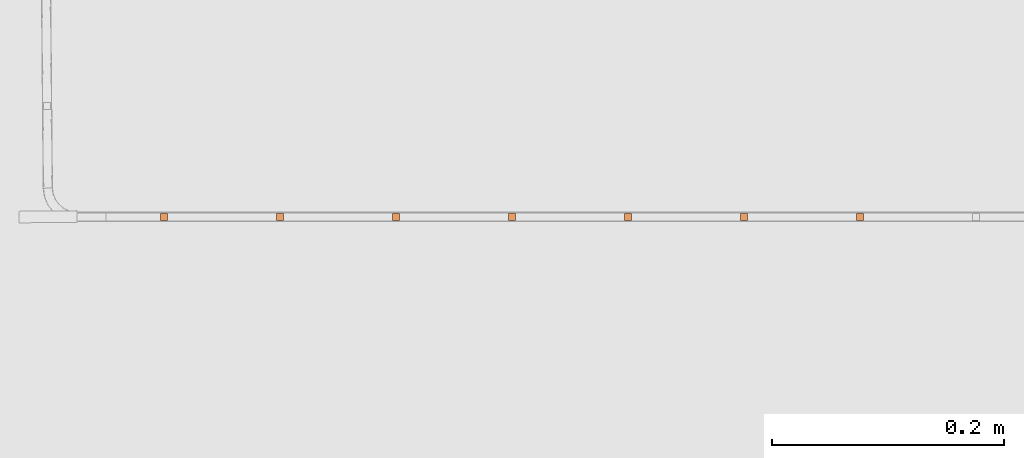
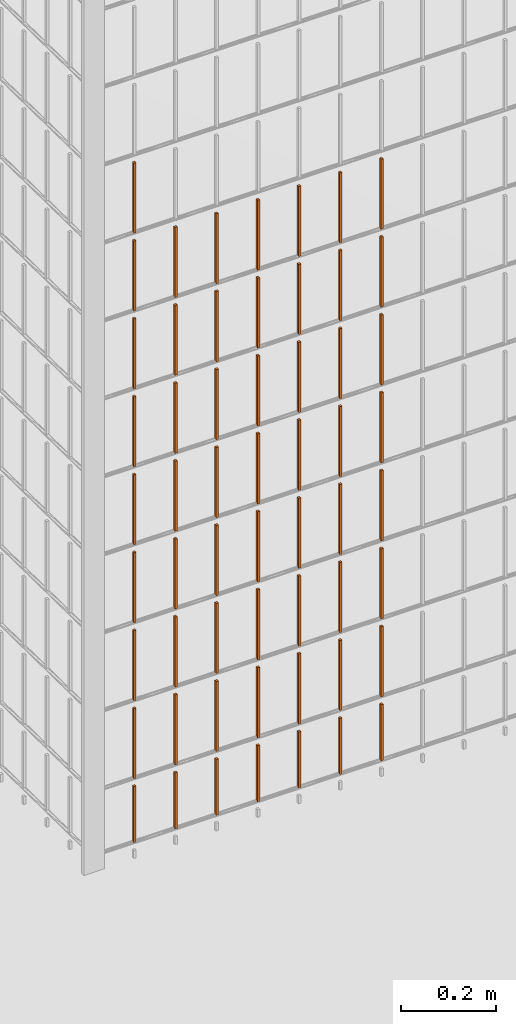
# One storey, part 237 of 1809: 57 proxies, 1 element without a shape of its own.
"""IFC2X3 building model written with IfcOpenShell, lengths in millimetres."""

from ifc_helpers import new_model, entity, si_unit, converted_unit, derived_unit, money_unit, direction, frame, origin_with_axes, place, context, subcontext, project, spatial, faceted_brep, source, transform, mapped, material, type_object, element, aggregate, save


model = new_model("IFC2X3")

# Units and contexts
model_context = context("Model", 3, precision=0.01, world=origin_with_axes(), true_north=direction((0.0, 1.0)))
body_context = subcontext(model_context, "Body", "Model", "MODEL_VIEW")
ifc_project = project(units=[si_unit("LENGTHUNIT", "METRE", prefix="MILLI"), si_unit("AREAUNIT", "SQUARE_METRE"), si_unit("VOLUMEUNIT", "CUBIC_METRE"), converted_unit("PLANEANGLEUNIT", "DEGREE", entity("IfcPlaneAngleMeasure", 0.0174532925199), si_unit("PLANEANGLEUNIT", "RADIAN"), dimensions=[0, 0, 0, 0, 0, 0, 0]), si_unit("SOLIDANGLEUNIT", "STERADIAN"), money_unit("EUR"), converted_unit("TIMEUNIT", "Year", entity("IfcTimeMeasure", 31556926.0), si_unit("TIMEUNIT", "SECOND"), dimensions=[0, 0, 1, 0, 0, 0, 0]), si_unit("MASSUNIT", "GRAM", prefix="KILO"), si_unit("THERMODYNAMICTEMPERATUREUNIT", "DEGREE_CELSIUS"), si_unit("LUMINOUSINTENSITYUNIT", "LUMEN"), si_unit("ENERGYUNIT", "JOULE", prefix="MEGA"), derived_unit("THERMALCONDUCTANCEUNIT", [(si_unit("POWERUNIT", "WATT"), 1), (si_unit("LENGTHUNIT", "METRE"), -1), (si_unit("THERMODYNAMICTEMPERATUREUNIT", "KELVIN"), -1)]), derived_unit("SPECIFICHEATCAPACITYUNIT", [(si_unit("ENERGYUNIT", "JOULE"), 1), (si_unit("MASSUNIT", "GRAM", prefix="KILO"), -1), (si_unit("THERMODYNAMICTEMPERATUREUNIT", "KELVIN"), -1)]), derived_unit("MASSDENSITYUNIT", [(si_unit("MASSUNIT", "GRAM", prefix="KILO"), 1), (si_unit("VOLUMEUNIT", "CUBIC_METRE"), -1)])], contexts=[model_context])

# Site, building, storey
site_placement = place(None, origin_with_axes())
site = spatial("IfcSite", under=ifc_project, at=site_placement, Name="Politse- ja Piirivalveameti ning Päästeameti ühishoone", CompositionType="ELEMENT")
building_placement = place(site_placement, origin_with_axes())
building = spatial("IfcBuilding", under=site, at=building_placement, Name="Politse- ja Piirivalveameti ning Päästeameti ühishoone", CompositionType="ELEMENT")
storey_placement = place(building_placement, origin_with_axes())
storey = spatial("IfcBuildingStorey", under=building, at=storey_placement, Name="Esimene korrus", CompositionType="ELEMENT", Elevation=0.0)

# Proxies
building_element_proxy_type_1 = type_object("IfcBuildingElementProxyType", Name="Railing Type", PredefinedType="NOTDEFINED")
proxy_1_placement = place(storey_placement, frame((-16775.8601056, 25156.7555964, 0.0), z_axis=(0.0, 0.0, 1.0), x_axis=(1.0, 0.0, 0.0)))
proxy_1 = element("IfcBuildingElementProxy", 1, at=proxy_1_placement, inside=storey, type_object=building_element_proxy_type_1, Name="KENNELI PIIRE")
ifc_material = material(Name="Teras - Konstruktsioon")
building_element_proxy_type_2 = type_object("IfcBuildingElementProxyType", Name="IfcBuildingElementProxy", PredefinedType="NOTDEFINED")
shared_shape_1 = source(origin_with_axes(), body_context, "Body", "Brep", [
    faceted_brep([(3.0, 3.0, 0.0), (-3.0, 3.0, 0.0), (-3.0, 3.0, 180.000012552), (3.0, 3.0, 180.000012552), (3.0, -3.0, 0.0), (-3.0, -3.0, 0.0), (-3.0, -3.0, 180.000012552), (3.0, -3.0, 180.000012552)], [[[0, 1, 2, 3]], [[0, 4, 5, 1]], [[1, 5, 6, 2]], [[3, 2, 6, 7]], [[4, 0, 3, 7]], [[5, 4, 7, 6]]]),
])
proxy_2_placement = place(proxy_1_placement, frame((-4782.26655065, -16068.8402798, 403.999987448), z_axis=(0.0, 0.0, 1.0), x_axis=(1.0, 0.0, 0.0)))
proxy_2 = element("IfcBuildingElementProxy", 2, at=proxy_2_placement, type_object=building_element_proxy_type_2, material=ifc_material, Name="BALUSTER - 001", context=body_context, shape_type="MappedRepresentation", body=[
    mapped(shared_shape_1, transform((0.0, 0.0, 0.0), x_axis=(0.0, -1.0, 0.0), y_axis=(1.0, 0.0, 0.0), z_axis=(0.0, 0.0, 1.0))),
])
proxy_3_placement = place(proxy_1_placement, frame((-4682.26655065, -16068.8402798, 403.999987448), z_axis=(0.0, 0.0, 1.0), x_axis=(1.0, 0.0, 0.0)))
proxy_3 = element("IfcBuildingElementProxy", 3, at=proxy_3_placement, type_object=building_element_proxy_type_2, material=ifc_material, Name="BALUSTER - 001", context=body_context, shape_type="MappedRepresentation", body=[
    mapped(shared_shape_1, transform((0.0, 0.0, 0.0), x_axis=(0.0, -1.0, 0.0), y_axis=(1.0, 0.0, 0.0), z_axis=(0.0, 0.0, 1.0))),
])
proxy_4_placement = place(proxy_1_placement, frame((-4582.26655065, -16068.8402798, 403.999987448), z_axis=(0.0, 0.0, 1.0), x_axis=(1.0, 0.0, 0.0)))
proxy_4 = element("IfcBuildingElementProxy", 4, at=proxy_4_placement, type_object=building_element_proxy_type_2, material=ifc_material, Name="BALUSTER - 001", context=body_context, shape_type="MappedRepresentation", body=[
    mapped(shared_shape_1, transform((0.0, 0.0, 0.0), x_axis=(0.0, -1.0, 0.0), y_axis=(1.0, 0.0, 0.0), z_axis=(0.0, 0.0, 1.0))),
])
proxy_5_placement = place(proxy_1_placement, frame((-4482.26655065, -16068.8402798, 403.999987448), z_axis=(0.0, 0.0, 1.0), x_axis=(1.0, 0.0, 0.0)))
proxy_5 = element("IfcBuildingElementProxy", 5, at=proxy_5_placement, type_object=building_element_proxy_type_2, material=ifc_material, Name="BALUSTER - 001", context=body_context, shape_type="MappedRepresentation", body=[
    mapped(shared_shape_1, transform((0.0, 0.0, 0.0), x_axis=(0.0, -1.0, 0.0), y_axis=(1.0, 0.0, 0.0), z_axis=(0.0, 0.0, 1.0))),
])
proxy_6_placement = place(proxy_1_placement, frame((-4382.26655065, -16068.8402798, 403.999987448), z_axis=(0.0, 0.0, 1.0), x_axis=(1.0, 0.0, 0.0)))
proxy_6 = element("IfcBuildingElementProxy", 6, at=proxy_6_placement, type_object=building_element_proxy_type_2, material=ifc_material, Name="BALUSTER - 001", context=body_context, shape_type="MappedRepresentation", body=[
    mapped(shared_shape_1, transform((0.0, 0.0, 0.0), x_axis=(0.0, -1.0, 0.0), y_axis=(1.0, 0.0, 0.0), z_axis=(0.0, 0.0, 1.0))),
])
proxy_7_placement = place(proxy_1_placement, frame((-4282.26655065, -16068.8402798, 403.999987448), z_axis=(0.0, 0.0, 1.0), x_axis=(1.0, 0.0, 0.0)))
proxy_7 = element("IfcBuildingElementProxy", 7, at=proxy_7_placement, type_object=building_element_proxy_type_2, material=ifc_material, Name="BALUSTER - 001", context=body_context, shape_type="MappedRepresentation", body=[
    mapped(shared_shape_1, transform((0.0, 0.0, 0.0), x_axis=(0.0, -1.0, 0.0), y_axis=(1.0, 0.0, 0.0), z_axis=(0.0, 0.0, 1.0))),
])
proxy_8_placement = place(proxy_1_placement, frame((-4182.26655065, -16068.8402798, 403.999987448), z_axis=(0.0, 0.0, 1.0), x_axis=(1.0, 0.0, 0.0)))
proxy_8 = element("IfcBuildingElementProxy", 8, at=proxy_8_placement, type_object=building_element_proxy_type_2, material=ifc_material, Name="BALUSTER - 001", context=body_context, shape_type="MappedRepresentation", body=[
    mapped(shared_shape_1, transform((0.0, 0.0, 0.0), x_axis=(0.0, -1.0, 0.0), y_axis=(1.0, 0.0, 0.0), z_axis=(0.0, 0.0, 1.0))),
])
proxy_9_placement = place(proxy_1_placement, frame((-4782.26655065, -16068.8402798, 803.999987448), z_axis=(0.0, 0.0, 1.0), x_axis=(1.0, 0.0, 0.0)))
proxy_9 = element("IfcBuildingElementProxy", 9, at=proxy_9_placement, type_object=building_element_proxy_type_2, material=ifc_material, Name="BALUSTER - 001", context=body_context, shape_type="MappedRepresentation", body=[
    mapped(shared_shape_1, transform((0.0, 0.0, 0.0), x_axis=(0.0, -1.0, 0.0), y_axis=(1.0, 0.0, 0.0), z_axis=(0.0, 0.0, 1.0))),
])
proxy_10_placement = place(proxy_1_placement, frame((-4682.26655065, -16068.8402798, 803.999987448), z_axis=(0.0, 0.0, 1.0), x_axis=(1.0, 0.0, 0.0)))
proxy_10 = element("IfcBuildingElementProxy", 10, at=proxy_10_placement, type_object=building_element_proxy_type_2, material=ifc_material, Name="BALUSTER - 001", context=body_context, shape_type="MappedRepresentation", body=[
    mapped(shared_shape_1, transform((0.0, 0.0, 0.0), x_axis=(0.0, -1.0, 0.0), y_axis=(1.0, 0.0, 0.0), z_axis=(0.0, 0.0, 1.0))),
])
proxy_11_placement = place(proxy_1_placement, frame((-4582.26655065, -16068.8402798, 803.999987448), z_axis=(0.0, 0.0, 1.0), x_axis=(1.0, 0.0, 0.0)))
proxy_11 = element("IfcBuildingElementProxy", 11, at=proxy_11_placement, type_object=building_element_proxy_type_2, material=ifc_material, Name="BALUSTER - 001", context=body_context, shape_type="MappedRepresentation", body=[
    mapped(shared_shape_1, transform((0.0, 0.0, 0.0), x_axis=(0.0, -1.0, 0.0), y_axis=(1.0, 0.0, 0.0), z_axis=(0.0, 0.0, 1.0))),
])
proxy_12_placement = place(proxy_1_placement, frame((-4482.26655065, -16068.8402798, 803.999987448), z_axis=(0.0, 0.0, 1.0), x_axis=(1.0, 0.0, 0.0)))
proxy_12 = element("IfcBuildingElementProxy", 12, at=proxy_12_placement, type_object=building_element_proxy_type_2, material=ifc_material, Name="BALUSTER - 001", context=body_context, shape_type="MappedRepresentation", body=[
    mapped(shared_shape_1, transform((0.0, 0.0, 0.0), x_axis=(0.0, -1.0, 0.0), y_axis=(1.0, 0.0, 0.0), z_axis=(0.0, 0.0, 1.0))),
])
proxy_13_placement = place(proxy_1_placement, frame((-4382.26655065, -16068.8402798, 803.999987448), z_axis=(0.0, 0.0, 1.0), x_axis=(1.0, 0.0, 0.0)))
proxy_13 = element("IfcBuildingElementProxy", 13, at=proxy_13_placement, type_object=building_element_proxy_type_2, material=ifc_material, Name="BALUSTER - 001", context=body_context, shape_type="MappedRepresentation", body=[
    mapped(shared_shape_1, transform((0.0, 0.0, 0.0), x_axis=(0.0, -1.0, 0.0), y_axis=(1.0, 0.0, 0.0), z_axis=(0.0, 0.0, 1.0))),
])
proxy_14_placement = place(proxy_1_placement, frame((-4282.26655065, -16068.8402798, 803.999987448), z_axis=(0.0, 0.0, 1.0), x_axis=(1.0, 0.0, 0.0)))
proxy_14 = element("IfcBuildingElementProxy", 14, at=proxy_14_placement, type_object=building_element_proxy_type_2, material=ifc_material, Name="BALUSTER - 001", context=body_context, shape_type="MappedRepresentation", body=[
    mapped(shared_shape_1, transform((0.0, 0.0, 0.0), x_axis=(0.0, -1.0, 0.0), y_axis=(1.0, 0.0, 0.0), z_axis=(0.0, 0.0, 1.0))),
])
proxy_15_placement = place(proxy_1_placement, frame((-4182.26655065, -16068.8402798, 803.999987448), z_axis=(0.0, 0.0, 1.0), x_axis=(1.0, 0.0, 0.0)))
proxy_15 = element("IfcBuildingElementProxy", 15, at=proxy_15_placement, type_object=building_element_proxy_type_2, material=ifc_material, Name="BALUSTER - 001", context=body_context, shape_type="MappedRepresentation", body=[
    mapped(shared_shape_1, transform((0.0, 0.0, 0.0), x_axis=(0.0, -1.0, 0.0), y_axis=(1.0, 0.0, 0.0), z_axis=(0.0, 0.0, 1.0))),
])
proxy_16_placement = place(proxy_1_placement, frame((-4782.26655065, -16068.8402798, 1003.99998745), z_axis=(0.0, 0.0, 1.0), x_axis=(1.0, 0.0, 0.0)))
proxy_16 = element("IfcBuildingElementProxy", 16, at=proxy_16_placement, type_object=building_element_proxy_type_2, material=ifc_material, Name="BALUSTER - 001", context=body_context, shape_type="MappedRepresentation", body=[
    mapped(shared_shape_1, transform((0.0, 0.0, 0.0), x_axis=(0.0, -1.0, 0.0), y_axis=(1.0, 0.0, 0.0), z_axis=(0.0, 0.0, 1.0))),
])
proxy_17_placement = place(proxy_1_placement, frame((-4682.26655065, -16068.8402798, 1003.99998745), z_axis=(0.0, 0.0, 1.0), x_axis=(1.0, 0.0, 0.0)))
proxy_17 = element("IfcBuildingElementProxy", 17, at=proxy_17_placement, type_object=building_element_proxy_type_2, material=ifc_material, Name="BALUSTER - 001", context=body_context, shape_type="MappedRepresentation", body=[
    mapped(shared_shape_1, transform((0.0, 0.0, 0.0), x_axis=(0.0, -1.0, 0.0), y_axis=(1.0, 0.0, 0.0), z_axis=(0.0, 0.0, 1.0))),
])
proxy_18_placement = place(proxy_1_placement, frame((-4582.26655065, -16068.8402798, 1003.99998745), z_axis=(0.0, 0.0, 1.0), x_axis=(1.0, 0.0, 0.0)))
proxy_18 = element("IfcBuildingElementProxy", 18, at=proxy_18_placement, type_object=building_element_proxy_type_2, material=ifc_material, Name="BALUSTER - 001", context=body_context, shape_type="MappedRepresentation", body=[
    mapped(shared_shape_1, transform((0.0, 0.0, 0.0), x_axis=(0.0, -1.0, 0.0), y_axis=(1.0, 0.0, 0.0), z_axis=(0.0, 0.0, 1.0))),
])
proxy_19_placement = place(proxy_1_placement, frame((-4482.26655065, -16068.8402798, 1003.99998745), z_axis=(0.0, 0.0, 1.0), x_axis=(1.0, 0.0, 0.0)))
proxy_19 = element("IfcBuildingElementProxy", 19, at=proxy_19_placement, type_object=building_element_proxy_type_2, material=ifc_material, Name="BALUSTER - 001", context=body_context, shape_type="MappedRepresentation", body=[
    mapped(shared_shape_1, transform((0.0, 0.0, 0.0), x_axis=(0.0, -1.0, 0.0), y_axis=(1.0, 0.0, 0.0), z_axis=(0.0, 0.0, 1.0))),
])
proxy_20_placement = place(proxy_1_placement, frame((-4382.26655065, -16068.8402798, 1003.99998745), z_axis=(0.0, 0.0, 1.0), x_axis=(1.0, 0.0, 0.0)))
proxy_20 = element("IfcBuildingElementProxy", 20, at=proxy_20_placement, type_object=building_element_proxy_type_2, material=ifc_material, Name="BALUSTER - 001", context=body_context, shape_type="MappedRepresentation", body=[
    mapped(shared_shape_1, transform((0.0, 0.0, 0.0), x_axis=(0.0, -1.0, 0.0), y_axis=(1.0, 0.0, 0.0), z_axis=(0.0, 0.0, 1.0))),
])
proxy_21_placement = place(proxy_1_placement, frame((-4282.26655065, -16068.8402798, 1003.99998745), z_axis=(0.0, 0.0, 1.0), x_axis=(1.0, 0.0, 0.0)))
proxy_21 = element("IfcBuildingElementProxy", 21, at=proxy_21_placement, type_object=building_element_proxy_type_2, material=ifc_material, Name="BALUSTER - 001", context=body_context, shape_type="MappedRepresentation", body=[
    mapped(shared_shape_1, transform((0.0, 0.0, 0.0), x_axis=(0.0, -1.0, 0.0), y_axis=(1.0, 0.0, 0.0), z_axis=(0.0, 0.0, 1.0))),
])
proxy_22_placement = place(proxy_1_placement, frame((-4182.26655065, -16068.8402798, 1003.99998745), z_axis=(0.0, 0.0, 1.0), x_axis=(1.0, 0.0, 0.0)))
proxy_22 = element("IfcBuildingElementProxy", 22, at=proxy_22_placement, type_object=building_element_proxy_type_2, material=ifc_material, Name="BALUSTER - 001", context=body_context, shape_type="MappedRepresentation", body=[
    mapped(shared_shape_1, transform((0.0, 0.0, 0.0), x_axis=(0.0, -1.0, 0.0), y_axis=(1.0, 0.0, 0.0), z_axis=(0.0, 0.0, 1.0))),
])
shared_shape_2 = source(origin_with_axes(), body_context, "Body", "Brep", [
    faceted_brep([(3.0, 3.0, 0.0), (-3.0, 3.0, 0.0), (-3.0, 3.0, 144.000012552), (3.0, 3.0, 144.000012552), (3.0, -3.0, 0.0), (-3.0, -3.0, 0.0), (-3.0, -3.0, 144.000012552), (3.0, -3.0, 144.000012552)], [[[0, 1, 2, 3]], [[0, 4, 5, 1]], [[1, 5, 6, 2]], [[3, 2, 6, 7]], [[4, 0, 3, 7]], [[5, 4, 7, 6]]]),
])
proxy_23_placement = place(proxy_1_placement, frame((-4782.26655065, -16068.8402798, 39.9999874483), z_axis=(0.0, 0.0, 1.0), x_axis=(1.0, 0.0, 0.0)))
proxy_23 = element("IfcBuildingElementProxy", 23, at=proxy_23_placement, type_object=building_element_proxy_type_2, material=ifc_material, Name="BALUSTER - 001", context=body_context, shape_type="MappedRepresentation", body=[
    mapped(shared_shape_2, transform((0.0, 0.0, 0.0), x_axis=(0.0, -1.0, 0.0), y_axis=(1.0, 0.0, 0.0), z_axis=(0.0, 0.0, 1.0))),
])
proxy_24_placement = place(proxy_1_placement, frame((-4682.26655065, -16068.8402798, 39.9999874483), z_axis=(0.0, 0.0, 1.0), x_axis=(1.0, 0.0, 0.0)))
proxy_24 = element("IfcBuildingElementProxy", 24, at=proxy_24_placement, type_object=building_element_proxy_type_2, material=ifc_material, Name="BALUSTER - 001", context=body_context, shape_type="MappedRepresentation", body=[
    mapped(shared_shape_2, transform((0.0, 0.0, 0.0), x_axis=(0.0, -1.0, 0.0), y_axis=(1.0, 0.0, 0.0), z_axis=(0.0, 0.0, 1.0))),
])
proxy_25_placement = place(proxy_1_placement, frame((-4582.26655065, -16068.8402798, 39.9999874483), z_axis=(0.0, 0.0, 1.0), x_axis=(1.0, 0.0, 0.0)))
proxy_25 = element("IfcBuildingElementProxy", 25, at=proxy_25_placement, type_object=building_element_proxy_type_2, material=ifc_material, Name="BALUSTER - 001", context=body_context, shape_type="MappedRepresentation", body=[
    mapped(shared_shape_2, transform((0.0, 0.0, 0.0), x_axis=(0.0, -1.0, 0.0), y_axis=(1.0, 0.0, 0.0), z_axis=(0.0, 0.0, 1.0))),
])
proxy_26_placement = place(proxy_1_placement, frame((-4482.26655065, -16068.8402798, 39.9999874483), z_axis=(0.0, 0.0, 1.0), x_axis=(1.0, 0.0, 0.0)))
proxy_26 = element("IfcBuildingElementProxy", 26, at=proxy_26_placement, type_object=building_element_proxy_type_2, material=ifc_material, Name="BALUSTER - 001", context=body_context, shape_type="MappedRepresentation", body=[
    mapped(shared_shape_2, transform((0.0, 0.0, 0.0), x_axis=(0.0, -1.0, 0.0), y_axis=(1.0, 0.0, 0.0), z_axis=(0.0, 0.0, 1.0))),
])
proxy_27_placement = place(proxy_1_placement, frame((-4382.26655065, -16068.8402798, 39.9999874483), z_axis=(0.0, 0.0, 1.0), x_axis=(1.0, 0.0, 0.0)))
proxy_27 = element("IfcBuildingElementProxy", 27, at=proxy_27_placement, type_object=building_element_proxy_type_2, material=ifc_material, Name="BALUSTER - 001", context=body_context, shape_type="MappedRepresentation", body=[
    mapped(shared_shape_2, transform((0.0, 0.0, 0.0), x_axis=(0.0, -1.0, 0.0), y_axis=(1.0, 0.0, 0.0), z_axis=(0.0, 0.0, 1.0))),
])
proxy_28_placement = place(proxy_1_placement, frame((-4282.26655065, -16068.8402798, 39.9999874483), z_axis=(0.0, 0.0, 1.0), x_axis=(1.0, 0.0, 0.0)))
proxy_28 = element("IfcBuildingElementProxy", 28, at=proxy_28_placement, type_object=building_element_proxy_type_2, material=ifc_material, Name="BALUSTER - 001", context=body_context, shape_type="MappedRepresentation", body=[
    mapped(shared_shape_2, transform((0.0, 0.0, 0.0), x_axis=(0.0, -1.0, 0.0), y_axis=(1.0, 0.0, 0.0), z_axis=(0.0, 0.0, 1.0))),
])
proxy_29_placement = place(proxy_1_placement, frame((-4182.26655065, -16068.8402798, 39.9999874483), z_axis=(0.0, 0.0, 1.0), x_axis=(1.0, 0.0, 0.0)))
proxy_29 = element("IfcBuildingElementProxy", 29, at=proxy_29_placement, type_object=building_element_proxy_type_2, material=ifc_material, Name="BALUSTER - 001", context=body_context, shape_type="MappedRepresentation", body=[
    mapped(shared_shape_2, transform((0.0, 0.0, 0.0), x_axis=(0.0, -1.0, 0.0), y_axis=(1.0, 0.0, 0.0), z_axis=(0.0, 0.0, 1.0))),
])
shared_shape_3 = source(origin_with_axes(), body_context, "Body", "Brep", [
    faceted_brep([(3.0, 3.0, 0.0), (-3.0, 3.0, 0.0), (-3.0, 3.0, 180.000012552), (3.0, 3.0, 180.000012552), (3.0, -3.0, 0.0), (-3.0, -3.0, 0.0), (-3.0, -3.0, 180.000012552), (3.0, -3.0, 180.000012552)], [[[0, 1, 2, 3]], [[0, 4, 5, 1]], [[1, 5, 6, 2]], [[3, 2, 6, 7]], [[4, 0, 3, 7]], [[5, 4, 7, 6]]]),
])
proxy_30_placement = place(proxy_1_placement, frame((-4782.26655065, -16068.8402798, 1403.99998745), z_axis=(0.0, 0.0, 1.0), x_axis=(1.0, 0.0, 0.0)))
proxy_30 = element("IfcBuildingElementProxy", 30, at=proxy_30_placement, type_object=building_element_proxy_type_2, material=ifc_material, Name="BALUSTER - 001", context=body_context, shape_type="MappedRepresentation", body=[
    mapped(shared_shape_3, transform((0.0, 0.0, 0.0), x_axis=(0.0, -1.0, 0.0), y_axis=(1.0, 0.0, 0.0), z_axis=(0.0, 0.0, 1.0))),
])
proxy_31_placement = place(proxy_1_placement, frame((-4682.26655065, -16068.8402798, 1403.99998745), z_axis=(0.0, 0.0, 1.0), x_axis=(1.0, 0.0, 0.0)))
proxy_31 = element("IfcBuildingElementProxy", 31, at=proxy_31_placement, type_object=building_element_proxy_type_2, material=ifc_material, Name="BALUSTER - 001", context=body_context, shape_type="MappedRepresentation", body=[
    mapped(shared_shape_3, transform((0.0, 0.0, 0.0), x_axis=(0.0, -1.0, 0.0), y_axis=(1.0, 0.0, 0.0), z_axis=(0.0, 0.0, 1.0))),
])
proxy_32_placement = place(proxy_1_placement, frame((-4582.26655065, -16068.8402798, 1403.99998745), z_axis=(0.0, 0.0, 1.0), x_axis=(1.0, 0.0, 0.0)))
proxy_32 = element("IfcBuildingElementProxy", 32, at=proxy_32_placement, type_object=building_element_proxy_type_2, material=ifc_material, Name="BALUSTER - 001", context=body_context, shape_type="MappedRepresentation", body=[
    mapped(shared_shape_3, transform((0.0, 0.0, 0.0), x_axis=(0.0, -1.0, 0.0), y_axis=(1.0, 0.0, 0.0), z_axis=(0.0, 0.0, 1.0))),
])
proxy_33_placement = place(proxy_1_placement, frame((-4482.26655065, -16068.8402798, 1403.99998745), z_axis=(0.0, 0.0, 1.0), x_axis=(1.0, 0.0, 0.0)))
proxy_33 = element("IfcBuildingElementProxy", 33, at=proxy_33_placement, type_object=building_element_proxy_type_2, material=ifc_material, Name="BALUSTER - 001", context=body_context, shape_type="MappedRepresentation", body=[
    mapped(shared_shape_3, transform((0.0, 0.0, 0.0), x_axis=(0.0, -1.0, 0.0), y_axis=(1.0, 0.0, 0.0), z_axis=(0.0, 0.0, 1.0))),
])
proxy_34_placement = place(proxy_1_placement, frame((-4382.26655065, -16068.8402798, 1403.99998745), z_axis=(0.0, 0.0, 1.0), x_axis=(1.0, 0.0, 0.0)))
proxy_34 = element("IfcBuildingElementProxy", 34, at=proxy_34_placement, type_object=building_element_proxy_type_2, material=ifc_material, Name="BALUSTER - 001", context=body_context, shape_type="MappedRepresentation", body=[
    mapped(shared_shape_3, transform((0.0, 0.0, 0.0), x_axis=(0.0, -1.0, 0.0), y_axis=(1.0, 0.0, 0.0), z_axis=(0.0, 0.0, 1.0))),
])
proxy_35_placement = place(proxy_1_placement, frame((-4282.26655065, -16068.8402798, 1403.99998745), z_axis=(0.0, 0.0, 1.0), x_axis=(1.0, 0.0, 0.0)))
proxy_35 = element("IfcBuildingElementProxy", 35, at=proxy_35_placement, type_object=building_element_proxy_type_2, material=ifc_material, Name="BALUSTER - 001", context=body_context, shape_type="MappedRepresentation", body=[
    mapped(shared_shape_3, transform((0.0, 0.0, 0.0), x_axis=(0.0, -1.0, 0.0), y_axis=(1.0, 0.0, 0.0), z_axis=(0.0, 0.0, 1.0))),
])
proxy_36_placement = place(proxy_1_placement, frame((-4182.26655065, -16068.8402798, 1403.99998745), z_axis=(0.0, 0.0, 1.0), x_axis=(1.0, 0.0, 0.0)))
proxy_36 = element("IfcBuildingElementProxy", 36, at=proxy_36_placement, type_object=building_element_proxy_type_2, material=ifc_material, Name="BALUSTER - 001", context=body_context, shape_type="MappedRepresentation", body=[
    mapped(shared_shape_3, transform((0.0, 0.0, 0.0), x_axis=(0.0, -1.0, 0.0), y_axis=(1.0, 0.0, 0.0), z_axis=(0.0, 0.0, 1.0))),
])
shared_shape_4 = source(origin_with_axes(), body_context, "Body", "Brep", [
    faceted_brep([(3.0, 3.0, 0.0), (-3.0, 3.0, 0.0), (-3.0, 3.0, 180.000012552), (3.0, 3.0, 180.000012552), (3.0, -3.0, 0.0), (-3.0, -3.0, 0.0), (-3.0, -3.0, 180.000012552), (3.0, -3.0, 180.000012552)], [[[0, 1, 2, 3]], [[0, 4, 5, 1]], [[1, 5, 6, 2]], [[3, 2, 6, 7]], [[4, 0, 3, 7]], [[5, 4, 7, 6]]]),
])
proxy_37_placement = place(proxy_1_placement, frame((-4782.26655065, -16068.8402798, 1203.99998745), z_axis=(0.0, 0.0, 1.0), x_axis=(1.0, 0.0, 0.0)))
proxy_37 = element("IfcBuildingElementProxy", 37, at=proxy_37_placement, type_object=building_element_proxy_type_2, material=ifc_material, Name="BALUSTER - 001", context=body_context, shape_type="MappedRepresentation", body=[
    mapped(shared_shape_4, transform((0.0, 0.0, 0.0), x_axis=(0.0, -1.0, 0.0), y_axis=(1.0, 0.0, 0.0), z_axis=(0.0, 0.0, 1.0))),
])
proxy_38_placement = place(proxy_1_placement, frame((-4682.26655065, -16068.8402798, 1203.99998745), z_axis=(0.0, 0.0, 1.0), x_axis=(1.0, 0.0, 0.0)))
proxy_38 = element("IfcBuildingElementProxy", 38, at=proxy_38_placement, type_object=building_element_proxy_type_2, material=ifc_material, Name="BALUSTER - 001", context=body_context, shape_type="MappedRepresentation", body=[
    mapped(shared_shape_4, transform((0.0, 0.0, 0.0), x_axis=(0.0, -1.0, 0.0), y_axis=(1.0, 0.0, 0.0), z_axis=(0.0, 0.0, 1.0))),
])
proxy_39_placement = place(proxy_1_placement, frame((-4582.26655065, -16068.8402798, 1203.99998745), z_axis=(0.0, 0.0, 1.0), x_axis=(1.0, 0.0, 0.0)))
proxy_39 = element("IfcBuildingElementProxy", 39, at=proxy_39_placement, type_object=building_element_proxy_type_2, material=ifc_material, Name="BALUSTER - 001", context=body_context, shape_type="MappedRepresentation", body=[
    mapped(shared_shape_4, transform((0.0, 0.0, 0.0), x_axis=(0.0, -1.0, 0.0), y_axis=(1.0, 0.0, 0.0), z_axis=(0.0, 0.0, 1.0))),
])
proxy_40_placement = place(proxy_1_placement, frame((-4482.26655065, -16068.8402798, 1203.99998745), z_axis=(0.0, 0.0, 1.0), x_axis=(1.0, 0.0, 0.0)))
proxy_40 = element("IfcBuildingElementProxy", 40, at=proxy_40_placement, type_object=building_element_proxy_type_2, material=ifc_material, Name="BALUSTER - 001", context=body_context, shape_type="MappedRepresentation", body=[
    mapped(shared_shape_4, transform((0.0, 0.0, 0.0), x_axis=(0.0, -1.0, 0.0), y_axis=(1.0, 0.0, 0.0), z_axis=(0.0, 0.0, 1.0))),
])
proxy_41_placement = place(proxy_1_placement, frame((-4382.26655065, -16068.8402798, 1203.99998745), z_axis=(0.0, 0.0, 1.0), x_axis=(1.0, 0.0, 0.0)))
proxy_41 = element("IfcBuildingElementProxy", 41, at=proxy_41_placement, type_object=building_element_proxy_type_2, material=ifc_material, Name="BALUSTER - 001", context=body_context, shape_type="MappedRepresentation", body=[
    mapped(shared_shape_4, transform((0.0, 0.0, 0.0), x_axis=(0.0, -1.0, 0.0), y_axis=(1.0, 0.0, 0.0), z_axis=(0.0, 0.0, 1.0))),
])
proxy_42_placement = place(proxy_1_placement, frame((-4282.26655065, -16068.8402798, 1203.99998745), z_axis=(0.0, 0.0, 1.0), x_axis=(1.0, 0.0, 0.0)))
proxy_42 = element("IfcBuildingElementProxy", 42, at=proxy_42_placement, type_object=building_element_proxy_type_2, material=ifc_material, Name="BALUSTER - 001", context=body_context, shape_type="MappedRepresentation", body=[
    mapped(shared_shape_4, transform((0.0, 0.0, 0.0), x_axis=(0.0, -1.0, 0.0), y_axis=(1.0, 0.0, 0.0), z_axis=(0.0, 0.0, 1.0))),
])
proxy_43_placement = place(proxy_1_placement, frame((-4182.26655065, -16068.8402798, 1203.99998745), z_axis=(0.0, 0.0, 1.0), x_axis=(1.0, 0.0, 0.0)))
proxy_43 = element("IfcBuildingElementProxy", 43, at=proxy_43_placement, type_object=building_element_proxy_type_2, material=ifc_material, Name="BALUSTER - 001", context=body_context, shape_type="MappedRepresentation", body=[
    mapped(shared_shape_4, transform((0.0, 0.0, 0.0), x_axis=(0.0, -1.0, 0.0), y_axis=(1.0, 0.0, 0.0), z_axis=(0.0, 0.0, 1.0))),
])
shared_shape_5 = source(origin_with_axes(), body_context, "Body", "Brep", [
    faceted_brep([(3.0, 3.0, 0.0), (-3.0, 3.0, 0.0), (-3.0, 3.0, 180.000012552), (3.0, 3.0, 180.000012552), (3.0, -3.0, 0.0), (-3.0, -3.0, 0.0), (-3.0, -3.0, 180.000012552), (3.0, -3.0, 180.000012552)], [[[0, 1, 2, 3]], [[0, 4, 5, 1]], [[1, 5, 6, 2]], [[3, 2, 6, 7]], [[4, 0, 3, 7]], [[5, 4, 7, 6]]]),
])
proxy_44_placement = place(proxy_1_placement, frame((-4782.26655065, -16068.8402798, 203.999987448), z_axis=(0.0, 0.0, 1.0), x_axis=(1.0, 0.0, 0.0)))
proxy_44 = element("IfcBuildingElementProxy", 44, at=proxy_44_placement, type_object=building_element_proxy_type_2, material=ifc_material, Name="BALUSTER - 001", context=body_context, shape_type="MappedRepresentation", body=[
    mapped(shared_shape_5, transform((0.0, 0.0, 0.0), x_axis=(0.0, -1.0, 0.0), y_axis=(1.0, 0.0, 0.0), z_axis=(0.0, 0.0, 1.0))),
])
proxy_45_placement = place(proxy_1_placement, frame((-4682.26655065, -16068.8402798, 203.999987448), z_axis=(0.0, 0.0, 1.0), x_axis=(1.0, 0.0, 0.0)))
proxy_45 = element("IfcBuildingElementProxy", 45, at=proxy_45_placement, type_object=building_element_proxy_type_2, material=ifc_material, Name="BALUSTER - 001", context=body_context, shape_type="MappedRepresentation", body=[
    mapped(shared_shape_5, transform((0.0, 0.0, 0.0), x_axis=(0.0, -1.0, 0.0), y_axis=(1.0, 0.0, 0.0), z_axis=(0.0, 0.0, 1.0))),
])
proxy_46_placement = place(proxy_1_placement, frame((-4582.26655065, -16068.8402798, 203.999987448), z_axis=(0.0, 0.0, 1.0), x_axis=(1.0, 0.0, 0.0)))
proxy_46 = element("IfcBuildingElementProxy", 46, at=proxy_46_placement, type_object=building_element_proxy_type_2, material=ifc_material, Name="BALUSTER - 001", context=body_context, shape_type="MappedRepresentation", body=[
    mapped(shared_shape_5, transform((0.0, 0.0, 0.0), x_axis=(0.0, -1.0, 0.0), y_axis=(1.0, 0.0, 0.0), z_axis=(0.0, 0.0, 1.0))),
])
proxy_47_placement = place(proxy_1_placement, frame((-4482.26655065, -16068.8402798, 203.999987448), z_axis=(0.0, 0.0, 1.0), x_axis=(1.0, 0.0, 0.0)))
proxy_47 = element("IfcBuildingElementProxy", 47, at=proxy_47_placement, type_object=building_element_proxy_type_2, material=ifc_material, Name="BALUSTER - 001", context=body_context, shape_type="MappedRepresentation", body=[
    mapped(shared_shape_5, transform((0.0, 0.0, 0.0), x_axis=(0.0, -1.0, 0.0), y_axis=(1.0, 0.0, 0.0), z_axis=(0.0, 0.0, 1.0))),
])
proxy_48_placement = place(proxy_1_placement, frame((-4382.26655065, -16068.8402798, 203.999987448), z_axis=(0.0, 0.0, 1.0), x_axis=(1.0, 0.0, 0.0)))
proxy_48 = element("IfcBuildingElementProxy", 48, at=proxy_48_placement, type_object=building_element_proxy_type_2, material=ifc_material, Name="BALUSTER - 001", context=body_context, shape_type="MappedRepresentation", body=[
    mapped(shared_shape_5, transform((0.0, 0.0, 0.0), x_axis=(0.0, -1.0, 0.0), y_axis=(1.0, 0.0, 0.0), z_axis=(0.0, 0.0, 1.0))),
])
proxy_49_placement = place(proxy_1_placement, frame((-4282.26655065, -16068.8402798, 203.999987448), z_axis=(0.0, 0.0, 1.0), x_axis=(1.0, 0.0, 0.0)))
proxy_49 = element("IfcBuildingElementProxy", 49, at=proxy_49_placement, type_object=building_element_proxy_type_2, material=ifc_material, Name="BALUSTER - 001", context=body_context, shape_type="MappedRepresentation", body=[
    mapped(shared_shape_5, transform((0.0, 0.0, 0.0), x_axis=(0.0, -1.0, 0.0), y_axis=(1.0, 0.0, 0.0), z_axis=(0.0, 0.0, 1.0))),
])
proxy_50_placement = place(proxy_1_placement, frame((-4182.26655065, -16068.8402798, 203.999987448), z_axis=(0.0, 0.0, 1.0), x_axis=(1.0, 0.0, 0.0)))
proxy_50 = element("IfcBuildingElementProxy", 50, at=proxy_50_placement, type_object=building_element_proxy_type_2, material=ifc_material, Name="BALUSTER - 001", context=body_context, shape_type="MappedRepresentation", body=[
    mapped(shared_shape_5, transform((0.0, 0.0, 0.0), x_axis=(0.0, -1.0, 0.0), y_axis=(1.0, 0.0, 0.0), z_axis=(0.0, 0.0, 1.0))),
])
shared_shape_6 = source(origin_with_axes(), body_context, "Body", "Brep", [
    faceted_brep([(3.0, 3.0, 0.0), (-3.0, 3.0, 0.0), (-3.0, 3.0, 180.000012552), (3.0, 3.0, 180.000012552), (3.0, -3.0, 0.0), (-3.0, -3.0, 0.0), (-3.0, -3.0, 180.000012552), (3.0, -3.0, 180.000012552)], [[[0, 1, 2, 3]], [[0, 4, 5, 1]], [[1, 5, 6, 2]], [[3, 2, 6, 7]], [[4, 0, 3, 7]], [[5, 4, 7, 6]]]),
])
proxy_51_placement = place(proxy_1_placement, frame((-4782.26655065, -16068.8402798, 603.999987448), z_axis=(0.0, 0.0, 1.0), x_axis=(1.0, 0.0, 0.0)))
proxy_51 = element("IfcBuildingElementProxy", 51, at=proxy_51_placement, type_object=building_element_proxy_type_2, material=ifc_material, Name="BALUSTER - 001", context=body_context, shape_type="MappedRepresentation", body=[
    mapped(shared_shape_6, transform((0.0, 0.0, 0.0), x_axis=(0.0, -1.0, 0.0), y_axis=(1.0, 0.0, 0.0), z_axis=(0.0, 0.0, 1.0))),
])
proxy_52_placement = place(proxy_1_placement, frame((-4682.26655065, -16068.8402798, 603.999987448), z_axis=(0.0, 0.0, 1.0), x_axis=(1.0, 0.0, 0.0)))
proxy_52 = element("IfcBuildingElementProxy", 52, at=proxy_52_placement, type_object=building_element_proxy_type_2, material=ifc_material, Name="BALUSTER - 001", context=body_context, shape_type="MappedRepresentation", body=[
    mapped(shared_shape_6, transform((0.0, 0.0, 0.0), x_axis=(0.0, -1.0, 0.0), y_axis=(1.0, 0.0, 0.0), z_axis=(0.0, 0.0, 1.0))),
])
proxy_53_placement = place(proxy_1_placement, frame((-4582.26655065, -16068.8402798, 603.999987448), z_axis=(0.0, 0.0, 1.0), x_axis=(1.0, 0.0, 0.0)))
proxy_53 = element("IfcBuildingElementProxy", 53, at=proxy_53_placement, type_object=building_element_proxy_type_2, material=ifc_material, Name="BALUSTER - 001", context=body_context, shape_type="MappedRepresentation", body=[
    mapped(shared_shape_6, transform((0.0, 0.0, 0.0), x_axis=(0.0, -1.0, 0.0), y_axis=(1.0, 0.0, 0.0), z_axis=(0.0, 0.0, 1.0))),
])
proxy_54_placement = place(proxy_1_placement, frame((-4482.26655065, -16068.8402798, 603.999987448), z_axis=(0.0, 0.0, 1.0), x_axis=(1.0, 0.0, 0.0)))
proxy_54 = element("IfcBuildingElementProxy", 54, at=proxy_54_placement, type_object=building_element_proxy_type_2, material=ifc_material, Name="BALUSTER - 001", context=body_context, shape_type="MappedRepresentation", body=[
    mapped(shared_shape_6, transform((0.0, 0.0, 0.0), x_axis=(0.0, -1.0, 0.0), y_axis=(1.0, 0.0, 0.0), z_axis=(0.0, 0.0, 1.0))),
])
proxy_55_placement = place(proxy_1_placement, frame((-4382.26655065, -16068.8402798, 603.999987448), z_axis=(0.0, 0.0, 1.0), x_axis=(1.0, 0.0, 0.0)))
proxy_55 = element("IfcBuildingElementProxy", 55, at=proxy_55_placement, type_object=building_element_proxy_type_2, material=ifc_material, Name="BALUSTER - 001", context=body_context, shape_type="MappedRepresentation", body=[
    mapped(shared_shape_6, transform((0.0, 0.0, 0.0), x_axis=(0.0, -1.0, 0.0), y_axis=(1.0, 0.0, 0.0), z_axis=(0.0, 0.0, 1.0))),
])
proxy_56_placement = place(proxy_1_placement, frame((-4282.26655065, -16068.8402798, 603.999987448), z_axis=(0.0, 0.0, 1.0), x_axis=(1.0, 0.0, 0.0)))
proxy_56 = element("IfcBuildingElementProxy", 56, at=proxy_56_placement, type_object=building_element_proxy_type_2, material=ifc_material, Name="BALUSTER - 001", context=body_context, shape_type="MappedRepresentation", body=[
    mapped(shared_shape_6, transform((0.0, 0.0, 0.0), x_axis=(0.0, -1.0, 0.0), y_axis=(1.0, 0.0, 0.0), z_axis=(0.0, 0.0, 1.0))),
])
proxy_57_placement = place(proxy_1_placement, frame((-4182.26655065, -16068.8402798, 603.999987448), z_axis=(0.0, 0.0, 1.0), x_axis=(1.0, 0.0, 0.0)))
proxy_57 = element("IfcBuildingElementProxy", 57, at=proxy_57_placement, type_object=building_element_proxy_type_2, material=ifc_material, Name="BALUSTER - 001", context=body_context, shape_type="MappedRepresentation", body=[
    mapped(shared_shape_6, transform((0.0, 0.0, 0.0), x_axis=(0.0, -1.0, 0.0), y_axis=(1.0, 0.0, 0.0), z_axis=(0.0, 0.0, 1.0))),
])
shared_shape_7 = source(origin_with_axes(), body_context, "Body", "Brep", [
    faceted_brep([(3.0, 3.0, 0.0), (-3.0, 3.0, 0.0), (-3.0, 3.0, 180.000012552), (3.0, 3.0, 180.000012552), (3.0, -3.0, 0.0), (-3.0, -3.0, 0.0), (-3.0, -3.0, 180.000012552), (3.0, -3.0, 180.000012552)], [[[0, 1, 2, 3]], [[0, 4, 5, 1]], [[1, 5, 6, 2]], [[3, 2, 6, 7]], [[4, 0, 3, 7]], [[5, 4, 7, 6]]]),
])
proxy_58_placement = place(proxy_1_placement, frame((-4782.26655065, -16068.8402798, 1603.99998745), z_axis=(0.0, 0.0, 1.0), x_axis=(1.0, 0.0, 0.0)))
proxy_58 = element("IfcBuildingElementProxy", 58, at=proxy_58_placement, type_object=building_element_proxy_type_2, material=ifc_material, Name="BALUSTER - 001", context=body_context, shape_type="MappedRepresentation", body=[
    mapped(shared_shape_7, transform((0.0, 0.0, 0.0), x_axis=(0.0, -1.0, 0.0), y_axis=(1.0, 0.0, 0.0), z_axis=(0.0, 0.0, 1.0))),
])
aggregate(proxy_1, [proxy_23, proxy_24, proxy_25, proxy_26, proxy_27, proxy_28, proxy_29, proxy_44, proxy_45, proxy_46, proxy_47, proxy_48, proxy_49, proxy_50, proxy_2, proxy_3, proxy_4, proxy_5, proxy_6, proxy_7, proxy_8, proxy_51, proxy_52, proxy_53, proxy_54, proxy_55, proxy_56, proxy_57, proxy_9, proxy_10, proxy_11, proxy_12, proxy_13, proxy_14, proxy_15, proxy_16, proxy_17, proxy_18, proxy_19, proxy_20, proxy_21, proxy_22, proxy_37, proxy_38, proxy_39, proxy_40, proxy_41, proxy_42, proxy_43, proxy_30, proxy_31, proxy_32, proxy_33, proxy_34, proxy_35, proxy_36, proxy_58])

save(model, "model.ifc")
